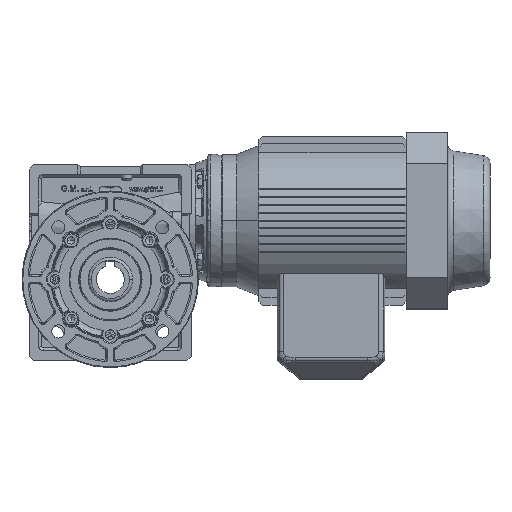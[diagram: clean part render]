
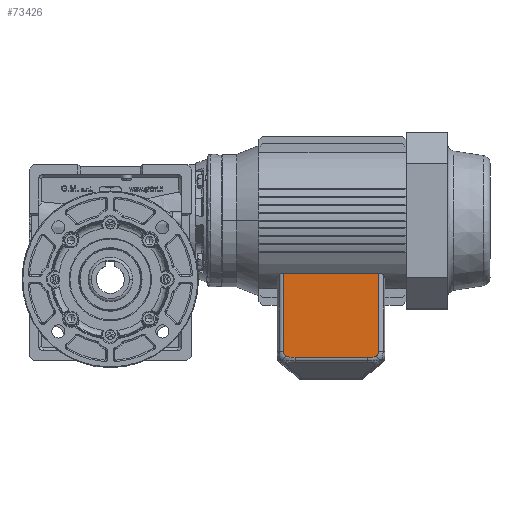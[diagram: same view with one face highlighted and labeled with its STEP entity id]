
A CAD part, top view. The second image highlights one B-rep face of the part: STEP entity #73426.
In plain terms, the highlighted planar face has unit normal (0, 0, 1) as drawn and (0, 1, 0) by its records, which use the part's own axes.
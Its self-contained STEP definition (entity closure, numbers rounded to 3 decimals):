
#63876=CARTESIAN_POINT('',(64.5,36.5,88.817));
#63877=VERTEX_POINT('',#63876);
#63885=CARTESIAN_POINT('',(64.5,36.5,35.62));
#63886=VERTEX_POINT('',#63885);
#63887=CARTESIAN_POINT('',(64.5,36.5,88.817));
#63888=DIRECTION('',(0.0,0.0,-1.0));
#63889=VECTOR('',#63888,53.197);
#63890=LINE('',#63887,#63889);
#63891=EDGE_CURVE('',#63877,#63886,#63890,.T.);
#65903=CARTESIAN_POINT('',(129.5,36.5,88.817));
#65904=VERTEX_POINT('',#65903);
#65912=CARTESIAN_POINT('',(127.492,36.5,92.055));
#65913=VERTEX_POINT('',#65912);
#65914=CARTESIAN_POINT('',(129.5,36.5,88.817));
#65915=CARTESIAN_POINT('',(129.5,36.5,93.134));
#65916=CARTESIAN_POINT('',(121.467,36.5,93.134));
#65917=QUASI_UNIFORM_CURVE('',2,(#65914,#65915,#65916),.UNSPECIFIED.,.F.,.U.);
#65918=EDGE_CURVE('',#65904,#65913,#65917,.T.);
#66060=CARTESIAN_POINT('',(121.467,36.5,93.134));
#66061=VERTEX_POINT('',#66060);
#66062=CARTESIAN_POINT('',(129.5,36.5,88.817));
#66063=CARTESIAN_POINT('',(129.5,36.5,93.134));
#66064=CARTESIAN_POINT('',(121.467,36.5,93.134));
#66065=QUASI_UNIFORM_CURVE('',2,(#66062,#66063,#66064),.UNSPECIFIED.,.F.,.U.);
#66066=EDGE_CURVE('',#65913,#66061,#66065,.T.);
#66937=CARTESIAN_POINT('',(72.533,36.5,93.134));
#66938=VERTEX_POINT('',#66937);
#66946=CARTESIAN_POINT('',(66.508,36.5,92.055));
#66947=VERTEX_POINT('',#66946);
#66948=CARTESIAN_POINT('',(72.533,36.5,93.134));
#66949=CARTESIAN_POINT('',(64.5,36.5,93.134));
#66950=CARTESIAN_POINT('',(64.5,36.5,88.817));
#66951=QUASI_UNIFORM_CURVE('',2,(#66948,#66949,#66950),.UNSPECIFIED.,.F.,.U.);
#66952=EDGE_CURVE('',#66938,#66947,#66951,.T.);
#67094=CARTESIAN_POINT('',(72.533,36.5,93.134));
#67095=CARTESIAN_POINT('',(64.5,36.5,93.134));
#67096=CARTESIAN_POINT('',(64.5,36.5,88.817));
#67097=QUASI_UNIFORM_CURVE('',2,(#67094,#67095,#67096),.UNSPECIFIED.,.F.,.U.);
#67098=EDGE_CURVE('',#66947,#63877,#67097,.T.);
#72813=CARTESIAN_POINT('',(129.5,36.5,35.62));
#72814=VERTEX_POINT('',#72813);
#72829=CARTESIAN_POINT('',(129.5,36.5,35.62));
#72830=DIRECTION('',(0.0,0.0,1.0));
#72831=VECTOR('',#72830,53.197);
#72832=LINE('',#72829,#72831);
#72833=EDGE_CURVE('',#72814,#65904,#72832,.T.);
#72850=CARTESIAN_POINT('',(121.467,36.5,93.134));
#72851=DIRECTION('',(-1.0,0.0,0.0));
#72852=VECTOR('',#72851,48.935);
#72853=LINE('',#72850,#72852);
#72854=EDGE_CURVE('',#66061,#66938,#72853,.T.);
#73406=CARTESIAN_POINT('',(133.5,36.5,108.0));
#73407=DIRECTION('',(0.0,1.0,0.0));
#73408=DIRECTION('',(0.0,0.0,1.0));
#73409=AXIS2_PLACEMENT_3D('',#73406,#73407,#73408);
#73410=PLANE('',#73409);
#73411=ORIENTED_EDGE('',*,*,#63891,.F.);
#73412=ORIENTED_EDGE('',*,*,#67098,.F.);
#73413=ORIENTED_EDGE('',*,*,#66952,.F.);
#73414=ORIENTED_EDGE('',*,*,#72854,.F.);
#73415=ORIENTED_EDGE('',*,*,#66066,.F.);
#73416=ORIENTED_EDGE('',*,*,#65918,.F.);
#73417=ORIENTED_EDGE('',*,*,#72833,.F.);
#73418=CARTESIAN_POINT('',(64.5,36.5,35.62));
#73419=DIRECTION('',(1.0,0.0,0.0));
#73420=VECTOR('',#73419,65.);
#73421=LINE('',#73418,#73420);
#73422=EDGE_CURVE('',#63886,#72814,#73421,.T.);
#73423=ORIENTED_EDGE('',*,*,#73422,.F.);
#73424=EDGE_LOOP('',(#73411,#73412,#73413,#73414,#73415,#73416,#73417,#73423));
#73425=FACE_OUTER_BOUND('',#73424,.T.);
#73426=ADVANCED_FACE('',(#73425),#73410,.T.);
